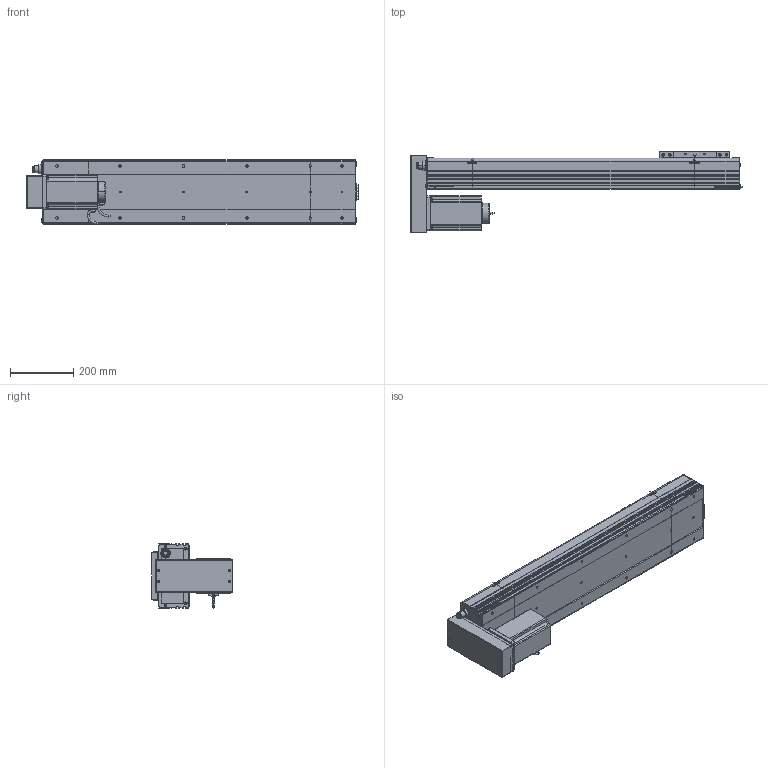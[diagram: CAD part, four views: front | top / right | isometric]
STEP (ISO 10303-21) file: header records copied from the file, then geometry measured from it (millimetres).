
FILE_DESCRIPTION (( 'STEP AP214' ), '1' );
FILE_NAME ('D20 CSH BM S700.STEP', '2010-06-30T08:08:19', ( 'Conseil Régional Haute-Normandie' ), ( 'Conseil Régional Haute-Normandie' ), 'SwSTEP 2.0', 'SolidWorks 2010', '' );
FILE_SCHEMA (( 'AUTOMOTIVE_DESIGN' ));
Length unit declared in the file: millimetre
Products named in the file (31): Plaque De Serrage Head BM D20_Default; vis M5 L15_Default; Cache Moteur BM D20_Default; vis M5 L30_Default; ecrou_Default; Couvercle Head BM_Default; Corp Head BM D20_Default; vis M5 L47_Default; clavette; Corp Tail D20+100_Default; Tail D20+100_Default; D20 CSH BM S700; Plaque De Serrage D20_Default; Plaque de Bout Tail D20_Default; Couvercle_Default; Couvercle S700_Default; Corp S700_Default; Corp D20 S700_Default; Chariot D20_Default; Support Chariot D20_Default; Support moteur BM D20_Default; Plaque de Bout Head BM D20_Default; Head BM D20_Default; Glissiere_Default; corps 110BLDC170A-630x; avant 110BLDC170A-630x; Moteur motionking 110BLDC170A-640x; Conecteur_Default; Conecteur2_Default; codeur 110BLDC170A-630x
Assembly tree (58 placements, depth 4):
  D20 CSH BM S700
    Head BM D20_Default
      Corp Head BM D20_Default
      Cache Moteur BM D20_Default
      vis M5 L47_Default  x4
      vis M5 L15_Default  x6
      vis M5 L30_Default  x4
      ecrou_Default  x4
      Support moteur BM D20_Default
      Moteur motionking 110BLDC170A-640x
        codeur 110BLDC170A-630x
        avant 110BLDC170A-630x
        Conecteur2_Default
        corps 110BLDC170A-630x
        clavette
        Conecteur_Default
      Plaque De Serrage Head BM D20_Default
      Couvercle Head BM_Default
      Plaque de Bout Head BM D20_Default
    Corp D20 S700_Default
      Corp S700_Default
      Couvercle S700_Default
    Chariot D20_Default
      vis M5 L15_Default  x8
      Chariot D20_Default
      Glissiere_Default
      Support Chariot D20_Default
    Tail D20+100_Default
      vis M5 L15_Default  x6
      Plaque de Bout Tail D20_Default
      Corp Tail D20+100_Default
      Plaque De Serrage D20_Default
      Couvercle_Default
Bounding box: 1047.7 x 257.5 x 206 mm (x, y, z)
Volume: 9244237.8 mm3; surface area: 1755283.9 mm2
Topology: 95 solids, 95 shells, 3511 faces, 8851 edges, 5769 vertices
Faces by surface type: plane 1974, bspline 806, cylinder 593, torus 79, cone 59
Entity records: 156673 total; most frequent: CARTESIAN_POINT 81841, ORIENTED_EDGE 14850, DIRECTION 11075, EDGE_CURVE 7425, VERTEX_POINT 4917, VECTOR 4877, LINE 4877, EDGE_LOOP 3156
